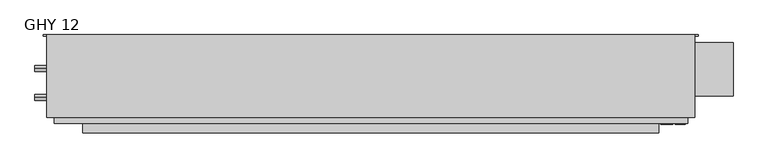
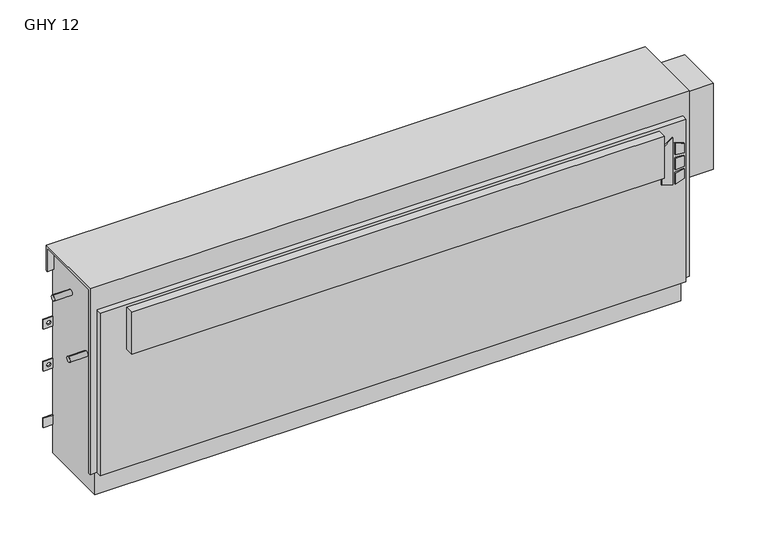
"""IFC4 building model written with IfcOpenShell, lengths in millimetres: proxy geometry, Vertical_Fan_Coil_Unit_-_GHY_-_IEC_-_2-Pipe_FS-FR_LH_2022 : GHY 12."""

from ifc_helpers import new_model, si_unit, point, frame, frame_2d, origin, place, context, project, spatial, polyline, circle_curve, trimmed, segment, composite_curve, outline, extrude, source, transform, mapped, element, save
from ifc_brep_helpers import plane_surface, revolved_surface, advanced_brep


def ghy_12_f6d3734e(model_context):
    return source(origin(), model_context, "Body", "SolidModel", [
        extrude(outline(polyline([(391.6086829, 919.2368862), (381.6606126, 951.4102728), (523.831537, 951.4102728), (500.8095309, 919.2368862), (391.6086829, 919.2368862)])), frame((0.0, 6.35, 0.0), z_axis=(0.0, 1.0, 0.0), x_axis=(0.0, 0.0, 1.0)), (0.0, 0.0, 1.0), 3.175),
        extrude(outline(polyline([(470.6079683, 958.1686058), (467.4055757, 984.25), (496.6344168, 984.25), (504.6988318, 958.1686058), (470.6079683, 958.1686058)])), frame((0.0, 6.35, 0.0), z_axis=(0.0, 1.0, 0.0), x_axis=(0.0, 0.0, 1.0)), (0.0, 0.0, 1.0), 3.175),
        extrude(outline(polyline([(418.7444414, 984.25), (415.0789404, 958.1686058), (381.6606126, 958.1686058), (390.2948498, 984.25), (418.7444414, 984.25)])), frame((0.0, 6.35, 0.0), z_axis=(0.0, 1.0, 0.0), x_axis=(0.0, 0.0, 1.0)), (0.0, 0.0, 1.0), 3.175),
        extrude(outline(polyline([(458.0596028, 984.25), (460.3414292, 958.1686058), (424.4038806, 958.1686058), (427.1451456, 984.25), (458.0596028, 984.25)])), frame((0.0, 6.35, 0.0), z_axis=(0.0, 1.0, 0.0), x_axis=(0.0, 0.0, 1.0)), (0.0, 0.0, 1.0), 3.175),
        extrude(outline(polyline([(914.4, -15.875), (-609.6, -15.875), (-609.6, 9.525), (914.4, 9.525), (914.4, -15.875)])), frame((0.0, 0.0, 428.625), z_axis=(0.0, 0.0, 1.0), x_axis=(1.0, 0.0, 0.0)), (0.0, 0.0, 1.0), 127.0),
        extrude(outline(composite_curve([segment(trimmed(circle_curve(frame_2d((77.597, 401.574)), 7.9375), [point((77.597, 409.5115))], [point((77.597, 393.6365))], False, "CARTESIAN"), True, "CONTINUOUS"), segment(trimmed(circle_curve(frame_2d((77.597, 401.574)), 7.9375), [point((77.597, 393.6365))], [point((77.597, 409.5115))], False, "CARTESIAN"), True, "CONTINUOUS")], self_intersect=False)), frame((-736.6, 0.0, 0.0), z_axis=(1.0, 0.0, 0.0), x_axis=(0.0, 1.0, 0.0)), (0.0, 0.0, 1.0), 50.8),
        extrude(outline(composite_curve([segment(trimmed(circle_curve(frame_2d((154.559, 540.512)), 7.9375), [point((154.559, 548.4495))], [point((154.559, 532.5745))], False, "CARTESIAN"), True, "CONTINUOUS"), segment(trimmed(circle_curve(frame_2d((154.559, 540.512)), 7.9375), [point((154.559, 532.5745))], [point((154.559, 548.4495))], False, "CARTESIAN"), True, "CONTINUOUS")], self_intersect=False)), frame((-736.6, 0.0, 0.0), z_axis=(1.0, 0.0, 0.0), x_axis=(0.0, 1.0, 0.0)), (0.0, 0.0, 1.0), 50.8),
        extrude(outline(polyline([(1111.25, 223.266), (1111.25, 81.534), (990.6, 81.534), (990.6, 223.266), (1111.25, 223.266)])), frame((0.0, 0.0, 327.025), z_axis=(0.0, 0.0, 1.0), x_axis=(1.0, 0.0, 0.0)), (0.0, 0.0, 1.0), 260.35),
        advanced_brep(
        [(1009.65, 244.475, 635.0), (-704.85, 244.475, 635.0), (-704.85, 25.4, 635.0), (1009.65, 25.4, 635.0), (-685.8, 244.475, 0.0), (990.6, 244.475, 0.0), (990.6, 34.925, 0.0), (-685.8, 34.925, 0.0), (1009.65, 244.475, 558.8), (990.6, 244.475, 558.8), (990.6, 244.475, 414.3375), (1019.175, 244.475, 414.3375), (1019.175, 244.475, 385.7625), (990.6, 244.475, 385.7625), (990.6, 244.475, 287.3375), (1019.175, 244.475, 287.3375), (1019.175, 244.475, 258.7625), (990.6, 244.475, 258.7625), (990.6, 244.475, 141.2875), (1019.175, 244.475, 141.2875), (1019.175, 244.475, 112.7125), (990.6, 244.475, 112.7125), (-685.8, 244.475, 87.3125), (-714.375, 244.475, 87.3125), (-714.375, 244.475, 115.8875), (-685.8, 244.475, 115.8875), (-685.8, 244.475, 258.7625), (-714.375, 244.475, 258.7625), (-714.375, 244.475, 287.3375), (-685.8, 244.475, 287.3375), (-685.8, 244.475, 385.7625), (-714.375, 244.475, 385.7625), (-714.375, 244.475, 414.3375), (-685.8, 244.475, 414.3375), (-685.8, 244.475, 558.8), (-704.85, 244.475, 558.8), (1008.8626, 244.475, 127.0), (997.7374, 244.475, 127.0), (1008.8626, 244.475, 273.05), (997.7374, 244.475, 273.05), (-692.9374, 244.475, 273.05), (-704.0626, 244.475, 273.05), (1008.8626, 244.475, 400.05), (997.7374, 244.475, 400.05), (-692.9374, 244.475, 400.05), (-704.0626, 244.475, 400.05), (-704.85, 238.125, 558.8), (-704.85, 238.125, 628.65), (-704.85, 31.75, 628.65), (-704.85, 31.75, 73.025), (-704.85, 25.4, 73.025), (990.6, 9.525, 565.15), (-685.8, 9.525, 565.15), (-685.8, 9.525, 73.025), (990.6, 9.525, 73.025), (1009.65, 25.4, 73.025), (1009.65, 31.75, 73.025), (1009.65, 31.75, 628.65), (1009.65, 238.125, 628.65), (1009.65, 238.125, 558.8), (-685.8, 25.4, 73.025), (-685.8, 25.4, 565.15), (990.6, 25.4, 565.15), (990.6, 25.4, 73.025), (-685.8, 31.75, 73.025), (-685.8, 34.925, 73.025), (990.6, 34.925, 73.025), (990.6, 31.75, 73.025), (990.6, 241.3, 112.7125), (990.6, 241.3, 141.2875), (990.6, 241.3, 258.7625), (990.6, 241.3, 287.3375), (990.6, 241.3, 385.7625), (990.6, 241.3, 414.3375), (990.6, 238.125, 558.8), (990.6, 238.125, 628.65), (990.6, 31.75, 628.65), (-685.8, 31.75, 628.65), (-685.8, 238.125, 628.65), (-685.8, 238.125, 558.8), (-685.8, 241.3, 414.3375), (-685.8, 241.3, 385.7625), (-685.8, 241.3, 287.3375), (-685.8, 241.3, 258.7625), (-685.8, 241.3, 115.8875), (-685.8, 241.3, 87.3125), (1019.175, 241.3, 112.7125), (1019.175, 241.3, 141.2875), (997.7374, 241.3, 127.0), (1008.8626, 241.3, 127.0), (1019.175, 241.3, 258.7625), (1019.175, 241.3, 287.3375), (997.7374, 241.3, 273.05), (1008.8626, 241.3, 273.05), (1019.175, 241.3, 385.7625), (1019.175, 241.3, 414.3375), (997.7374, 241.3, 400.05), (1008.8626, 241.3, 400.05), (-714.375, 241.3, 115.8875), (-714.375, 241.3, 87.3125), (-714.375, 241.3, 287.3375), (-714.375, 241.3, 258.7625), (-704.0626, 241.3, 273.05), (-692.9374, 241.3, 273.05), (-714.375, 241.3, 414.3375), (-714.375, 241.3, 385.7625), (-704.0626, 241.3, 400.05), (-692.9374, 241.3, 400.05)],
        [
            (0, 1),
            (1, 2),
            (2, 3),
            (3, 0),
            (4, 5),
            (5, 6),
            (6, 7),
            (7, 4),
            (0, 8),
            (8, 9),
            (9, 10),
            (10, 11),
            (11, 12),
            (12, 13),
            (13, 14),
            (14, 15),
            (15, 16),
            (16, 17),
            (17, 18),
            (18, 19),
            (19, 20),
            (20, 21),
            (21, 5),
            (4, 22),
            (22, 23),
            (23, 24),
            (24, 25),
            (25, 26),
            (26, 27),
            (27, 28),
            (28, 29),
            (29, 30),
            (30, 31),
            (31, 32),
            (32, 33),
            (33, 34),
            (34, 35),
            (35, 1),
            (36, 37, circle_curve(frame((1003.3, 244.475, 127.0), z_axis=(0.0, -1.0, 0.0), x_axis=(-1.0, 0.0, 0.0)), 5.5626)),
            (37, 36, circle_curve(frame((1003.3, 244.475, 127.0), z_axis=(0.0, -1.0, 0.0), x_axis=(-1.0, 0.0, 0.0)), 5.5626)),
            (38, 39, circle_curve(frame((1003.3, 244.475, 273.05), z_axis=(0.0, -1.0, 0.0), x_axis=(-1.0, 0.0, 0.0)), 5.5626)),
            (39, 38, circle_curve(frame((1003.3, 244.475, 273.05), z_axis=(0.0, -1.0, 0.0), x_axis=(-1.0, 0.0, 0.0)), 5.5626)),
            (40, 41, circle_curve(frame((-698.5, 244.475, 273.05), z_axis=(0.0, -1.0, 0.0), x_axis=(-1.0, 0.0, 0.0)), 5.5626)),
            (41, 40, circle_curve(frame((-698.5, 244.475, 273.05), z_axis=(0.0, -1.0, 0.0), x_axis=(-1.0, 0.0, 0.0)), 5.5626)),
            (42, 43, circle_curve(frame((1003.3, 244.475, 400.05), z_axis=(0.0, -1.0, 0.0), x_axis=(-1.0, 0.0, 0.0)), 5.5626)),
            (43, 42, circle_curve(frame((1003.3, 244.475, 400.05), z_axis=(0.0, -1.0, 0.0), x_axis=(-1.0, 0.0, 0.0)), 5.5626)),
            (44, 45, circle_curve(frame((-698.5, 244.475, 400.05), z_axis=(0.0, -1.0, 0.0), x_axis=(-1.0, 0.0, 0.0)), 5.5626)),
            (45, 44, circle_curve(frame((-698.5, 244.475, 400.05), z_axis=(0.0, -1.0, 0.0), x_axis=(-1.0, 0.0, 0.0)), 5.5626)),
            (35, 46),
            (46, 47),
            (47, 48),
            (48, 49),
            (49, 50),
            (50, 2),
            (51, 52),
            (52, 53),
            (53, 54),
            (54, 51),
            (3, 55),
            (55, 56),
            (56, 57),
            (57, 58),
            (58, 59),
            (59, 8),
            (50, 60),
            (60, 61),
            (61, 62),
            (62, 63),
            (63, 55),
            (51, 62),
            (61, 52),
            (53, 60),
            (49, 64),
            (64, 65),
            (65, 66),
            (66, 67),
            (67, 56),
            (63, 54),
            (6, 66),
            (65, 7),
            (21, 68),
            (68, 69),
            (69, 18),
            (17, 70),
            (70, 71),
            (71, 14),
            (13, 72),
            (72, 73),
            (73, 10),
            (9, 74),
            (74, 75),
            (75, 76),
            (76, 67),
            (64, 77),
            (77, 78),
            (78, 79),
            (79, 34),
            (33, 80),
            (80, 81),
            (81, 30),
            (29, 82),
            (82, 83),
            (83, 26),
            (25, 84),
            (84, 85),
            (85, 22),
            (74, 59),
            (58, 75),
            (76, 57),
            (48, 77),
            (79, 46),
            (78, 47),
            (68, 86),
            (86, 87),
            (87, 69),
            (88, 89, circle_curve(frame((1003.3, 241.3, 127.0), z_axis=(0.0, 1.0, 0.0), x_axis=(-1.0, 0.0, 0.0)), 5.5626)),
            (89, 88, circle_curve(frame((1003.3, 241.3, 127.0), z_axis=(0.0, 1.0, 0.0), x_axis=(-1.0, 0.0, 0.0)), 5.5626)),
            (90, 91),
            (91, 71),
            (70, 90),
            (92, 93, circle_curve(frame((1003.3, 241.3, 273.05), z_axis=(0.0, 1.0, 0.0), x_axis=(-1.0, 0.0, 0.0)), 5.5626)),
            (93, 92, circle_curve(frame((1003.3, 241.3, 273.05), z_axis=(0.0, 1.0, 0.0), x_axis=(-1.0, 0.0, 0.0)), 5.5626)),
            (94, 95),
            (95, 73),
            (72, 94),
            (96, 97, circle_curve(frame((1003.3, 241.3, 400.05), z_axis=(0.0, 1.0, 0.0), x_axis=(-1.0, 0.0, 0.0)), 5.5626)),
            (97, 96, circle_curve(frame((1003.3, 241.3, 400.05), z_axis=(0.0, 1.0, 0.0), x_axis=(-1.0, 0.0, 0.0)), 5.5626)),
            (98, 99),
            (99, 85),
            (84, 98),
            (82, 100),
            (100, 101),
            (101, 83),
            (102, 103, circle_curve(frame((-698.5, 241.3, 273.05), z_axis=(0.0, 1.0, 0.0), x_axis=(-1.0, 0.0, 0.0)), 5.5626)),
            (103, 102, circle_curve(frame((-698.5, 241.3, 273.05), z_axis=(0.0, 1.0, 0.0), x_axis=(-1.0, 0.0, 0.0)), 5.5626)),
            (104, 105),
            (105, 81),
            (80, 104),
            (106, 107, circle_curve(frame((-698.5, 241.3, 400.05), z_axis=(0.0, 1.0, 0.0), x_axis=(-1.0, 0.0, 0.0)), 5.5626)),
            (107, 106, circle_curve(frame((-698.5, 241.3, 400.05), z_axis=(0.0, 1.0, 0.0), x_axis=(-1.0, 0.0, 0.0)), 5.5626)),
            (87, 19),
            (86, 20),
            (16, 90),
            (91, 15),
            (12, 94),
            (95, 11),
            (24, 98),
            (99, 23),
            (101, 27),
            (100, 28),
            (32, 104),
            (105, 31),
            (88, 37),
            (36, 89),
            (92, 39),
            (38, 93),
            (102, 41),
            (40, 103),
            (96, 43),
            (42, 97),
            (106, 45),
            (44, 107),
        ],
        [
            plane_surface(frame((-704.85, 244.475, 635.0), z_axis=(0.0, 0.0, 1.0), x_axis=(-1.0, 0.0, 0.0))),
            plane_surface(frame((-704.85, 244.475, 0.0), z_axis=(0.0, 0.0, -1.0), x_axis=(1.0, 0.0, 0.0))),
            plane_surface(frame((1009.65, 244.475, 635.0), z_axis=(0.0, 1.0, 0.0), x_axis=(0.0, 0.0, -1.0))),
            plane_surface(frame((-704.85, 244.475, 635.0), z_axis=(-1.0, 0.0, 0.0), x_axis=(0.0, 0.0, -1.0))),
            plane_surface(frame((-704.85, 9.525, 635.0), z_axis=(0.0, -1.0, 0.0), x_axis=(0.0, 0.0, -1.0))),
            plane_surface(frame((1009.65, 9.525, 635.0), z_axis=(1.0, 0.0, 0.0), x_axis=(0.0, 0.0, -1.0))),
            plane_surface(frame((-1263.65, 25.4, 635.0), z_axis=(0.0, -1.0, 0.0), x_axis=(1.0, 0.0, 0.0))),
            plane_surface(frame((-1263.65, 25.4, 565.15), z_axis=(0.0, 0.0, 1.0), x_axis=(1.0, 0.0, 0.0))),
            plane_surface(frame((-704.85, 9.525, 73.025), z_axis=(0.0, 0.0, -1.0), x_axis=(1.0, 0.0, 0.0))),
            plane_surface(frame((-704.85, 34.925, 73.025), z_axis=(0.0, -1.0, 0.0), x_axis=(1.0, 0.0, 0.0))),
            plane_surface(frame((990.6, 25.4, 73.025), z_axis=(1.0, 0.0, 0.0), x_axis=(0.0, -1.0, 0.0))),
            plane_surface(frame((-685.8, 25.4, 565.15), z_axis=(-1.0, 0.0, 0.0), x_axis=(0.0, -1.0, 0.0))),
            plane_surface(frame((990.6, 244.475, 0.0), z_axis=(1.0, 0.0, 0.0), x_axis=(0.0, -1.0, 0.0))),
            plane_surface(frame((-685.8, 244.475, 73.025), z_axis=(-1.0, 0.0, 0.0), x_axis=(0.0, -1.0, 0.0))),
            plane_surface(frame((990.6, 238.125, 628.65), z_axis=(0.0, -1.0, 0.0), x_axis=(1.0, 0.0, 0.0))),
            plane_surface(frame((990.6, 238.125, 558.8), z_axis=(0.0, 0.0, -1.0), x_axis=(1.0, 0.0, 0.0))),
            plane_surface(frame((990.6, 31.75, 73.025), z_axis=(0.0, 1.0, 0.0), x_axis=(1.0, 0.0, 0.0))),
            plane_surface(frame((990.6, 31.75, 628.65), z_axis=(0.0, 0.0, -1.0), x_axis=(1.0, 0.0, 0.0))),
            plane_surface(frame((-685.8, 31.75, 628.65), z_axis=(0.0, 1.0, 0.0), x_axis=(-1.0, 0.0, 0.0))),
            plane_surface(frame((-685.8, 244.475, 558.8), z_axis=(0.0, 0.0, -1.0), x_axis=(-1.0, 0.0, 0.0))),
            plane_surface(frame((-685.8, 238.125, 558.8), z_axis=(0.0, -1.0, 0.0), x_axis=(-1.0, 0.0, 0.0))),
            plane_surface(frame((-685.8, 238.125, 628.65), z_axis=(0.0, 0.0, -1.0), x_axis=(-1.0, 0.0, 0.0))),
            plane_surface(frame((1019.175, 241.3, 141.2875), z_axis=(0.0, -1.0, 0.0), x_axis=(-1.0, 0.0, 0.0))),
            plane_surface(frame((990.6, 244.475, 141.2875), z_axis=(0.0, 0.0, 1.0), x_axis=(0.0, -1.0, 0.0))),
            plane_surface(frame((1019.175, 244.475, 141.2875), z_axis=(1.0, 0.0, 0.0), x_axis=(0.0, -1.0, 0.0))),
            plane_surface(frame((1019.175, 244.475, 112.7125), z_axis=(0.0, 0.0, -1.0), x_axis=(0.0, -1.0, 0.0))),
            plane_surface(frame((1019.175, 244.475, 258.7625), z_axis=(0.0, 0.0, -1.0), x_axis=(0.0, -1.0, 0.0))),
            plane_surface(frame((990.6, 244.475, 287.3375), z_axis=(0.0, 0.0, 1.0), x_axis=(0.0, -1.0, 0.0))),
            plane_surface(frame((1019.175, 244.475, 287.3375), z_axis=(1.0, 0.0, 0.0), x_axis=(0.0, -1.0, 0.0))),
            plane_surface(frame((1019.175, 244.475, 385.7625), z_axis=(0.0, 0.0, -1.0), x_axis=(0.0, -1.0, 0.0))),
            plane_surface(frame((990.6, 244.475, 414.3375), z_axis=(0.0, 0.0, 1.0), x_axis=(0.0, -1.0, 0.0))),
            plane_surface(frame((1019.175, 244.475, 414.3375), z_axis=(1.0, 0.0, 0.0), x_axis=(0.0, -1.0, 0.0))),
            plane_surface(frame((-714.375, 244.475, 115.8875), z_axis=(0.0, 0.0, 1.0), x_axis=(0.0, -1.0, 0.0))),
            plane_surface(frame((-685.8, 244.475, 87.3125), z_axis=(0.0, 0.0, -1.0), x_axis=(0.0, -1.0, 0.0))),
            plane_surface(frame((-714.375, 244.475, 87.3125), z_axis=(-1.0, 0.0, 0.0), x_axis=(0.0, -1.0, 0.0))),
            plane_surface(frame((-685.8, 244.475, 258.7625), z_axis=(0.0, 0.0, -1.0), x_axis=(0.0, -1.0, 0.0))),
            plane_surface(frame((-714.375, 244.475, 258.7625), z_axis=(-1.0, 0.0, 0.0), x_axis=(0.0, -1.0, 0.0))),
            plane_surface(frame((-714.375, 244.475, 287.3375), z_axis=(0.0, 0.0, 1.0), x_axis=(0.0, -1.0, 0.0))),
            plane_surface(frame((-714.375, 244.475, 414.3375), z_axis=(0.0, 0.0, 1.0), x_axis=(0.0, -1.0, 0.0))),
            plane_surface(frame((-685.8, 244.475, 385.7625), z_axis=(0.0, 0.0, -1.0), x_axis=(0.0, -1.0, 0.0))),
            plane_surface(frame((-714.375, 244.475, 385.7625), z_axis=(-1.0, 0.0, 0.0), x_axis=(0.0, -1.0, 0.0))),
            revolved_surface(polyline([(997.7374, 241.3, 127.0), (997.7374, 244.475, 127.0)]), (1003.3, 244.475, 127.0), (0.0, -1.0, 0.0)),
            revolved_surface(polyline([(997.7374, 241.3, 273.05), (997.7374, 244.475, 273.05)]), (1003.3, 244.475, 273.05), (0.0, -1.0, 0.0)),
            revolved_surface(polyline([(-704.0626, 241.3, 273.05), (-704.0626, 244.475, 273.05)]), (-698.5, 244.475, 273.05), (0.0, -1.0, 0.0)),
            revolved_surface(polyline([(997.7374, 241.3, 400.05), (997.7374, 244.475, 400.05)]), (1003.3, 244.475, 400.05), (0.0, -1.0, 0.0)),
            revolved_surface(polyline([(-704.0626, 241.3, 400.05), (-704.0626, 244.475, 400.05)]), (-698.5, 244.475, 400.05), (0.0, -1.0, 0.0)),
        ],
        [
            (0, [[1, 2, 3, 4]]),
            (1, [[5, 6, 7, 8]]),
            (2, [[-1, 9, 10, 11, 12, 13, 14, 15, 16, 17, 18, 19, 20, 21, 22, 23, -5, 24, 25, 26, 27, 28, 29, 30, 31, 32, 33, 34, 35, 36, 37, 38], [39, 40], [41, 42], [43, 44], [45, 46], [47, 48]]),
            (3, [[-2, -38, 49, 50, 51, 52, 53, 54]]),
            (4, [[55, 56, 57, 58]]),
            (5, [[-4, 59, 60, 61, 62, 63, 64, -9]]),
            (6, [[-3, -54, 65, 66, 67, 68, 69, -59]]),
            (7, [[-55, 70, -67, 71]]),
            (8, [[-57, 72, -65, -53, 73, 74, 75, 76, 77, -60, -69, 78]]),
            (9, [[-7, 79, -75, 80]]),
            (10, [[-68, -70, -58, -78]]),
            (11, [[-66, -72, -56, -71]]),
            (12, [[-6, -23, 81, 82, 83, -19, 84, 85, 86, -15, 87, 88, 89, -11, 90, 91, 92, 93, -76, -79]]),
            (13, [[-8, -80, -74, 94, 95, 96, 97, -36, 98, 99, 100, -32, 101, 102, 103, -28, 104, 105, 106, -24]]),
            (14, [[-91, 107, -63, 108]]),
            (15, [[-90, -10, -64, -107]]),
            (16, [[-93, 109, -61, -77]]),
            (17, [[-92, -108, -62, -109]]),
            (18, [[-94, -73, -52, 110]]),
            (19, [[-97, 111, -49, -37]]),
            (20, [[-96, 112, -50, -111]]),
            (21, [[-95, -110, -51, -112]]),
            (22, [[113, 114, 115, -82], [116, 117]]),
            (22, [[118, 119, -85, 120], [121, 122]]),
            (22, [[123, 124, -88, 125], [126, 127]]),
            (22, [[128, 129, -105, 130]]),
            (22, [[131, 132, 133, -102], [134, 135]]),
            (22, [[136, 137, -99, 138], [139, 140]]),
            (23, [[-115, 141, -20, -83]]),
            (24, [[-114, 142, -21, -141]]),
            (25, [[-113, -81, -22, -142]]),
            (26, [[-120, -84, -18, 143]]),
            (27, [[-119, 144, -16, -86]]),
            (28, [[-118, -143, -17, -144]]),
            (29, [[-125, -87, -14, 145]]),
            (30, [[-124, 146, -12, -89]]),
            (31, [[-123, -145, -13, -146]]),
            (32, [[-130, -104, -27, 147]]),
            (33, [[-129, 148, -25, -106]]),
            (34, [[-128, -147, -26, -148]]),
            (35, [[-133, 149, -29, -103]]),
            (36, [[-132, 150, -30, -149]]),
            (37, [[-131, -101, -31, -150]]),
            (38, [[-138, -98, -35, 151]]),
            (39, [[-137, 152, -33, -100]]),
            (40, [[-136, -151, -34, -152]]),
            (41, [[153, -39, 154, -116]]),
            (41, [[-153, -117, -154, -40]]),
            (42, [[155, -41, 156, -121]]),
            (42, [[-155, -122, -156, -42]]),
            (43, [[157, -43, 158, -134]]),
            (43, [[-157, -135, -158, -44]]),
            (44, [[159, -45, 160, -126]]),
            (44, [[-159, -127, -160, -46]]),
            (45, [[161, -47, 162, -139]]),
            (45, [[-161, -140, -162, -48]]),
        ],
    ),
    ])


if __name__ == "__main__":
    model = new_model("IFC4")
    model_context = context("Model", 3, world=origin())
    ifc_project = project(units=[si_unit("LENGTHUNIT", "METRE", prefix="MILLI")], contexts=[model_context])
    site = spatial("IfcSite", under=ifc_project)
    building = spatial("IfcBuilding", under=site)
    placement = place(None, origin())
    ghy_12_shape = ghy_12_f6d3734e(model_context)
    element("IfcBuildingElementProxy", 1, Name="Vertical_Fan_Coil_Unit_-_GHY_-_IEC_-_2-Pipe_FS-FR_LH_2022 : GHY 12", ObjectType="Vertical_Fan_Coil_Unit_-_GHY_-_IEC_-_2-Pipe_FS-FR_LH_2022 : GHY 12", at=placement, inside=building, context=model_context, shape_type="MappedRepresentation", body=[
        mapped(ghy_12_shape, transform((0.0, 0.0, 0.0), x_axis=(1.0, 0.0, 0.0), y_axis=(0.0, 1.0, 0.0), z_axis=(0.0, 0.0, 1.0))),
    ])
    save(model, "model.ifc")
